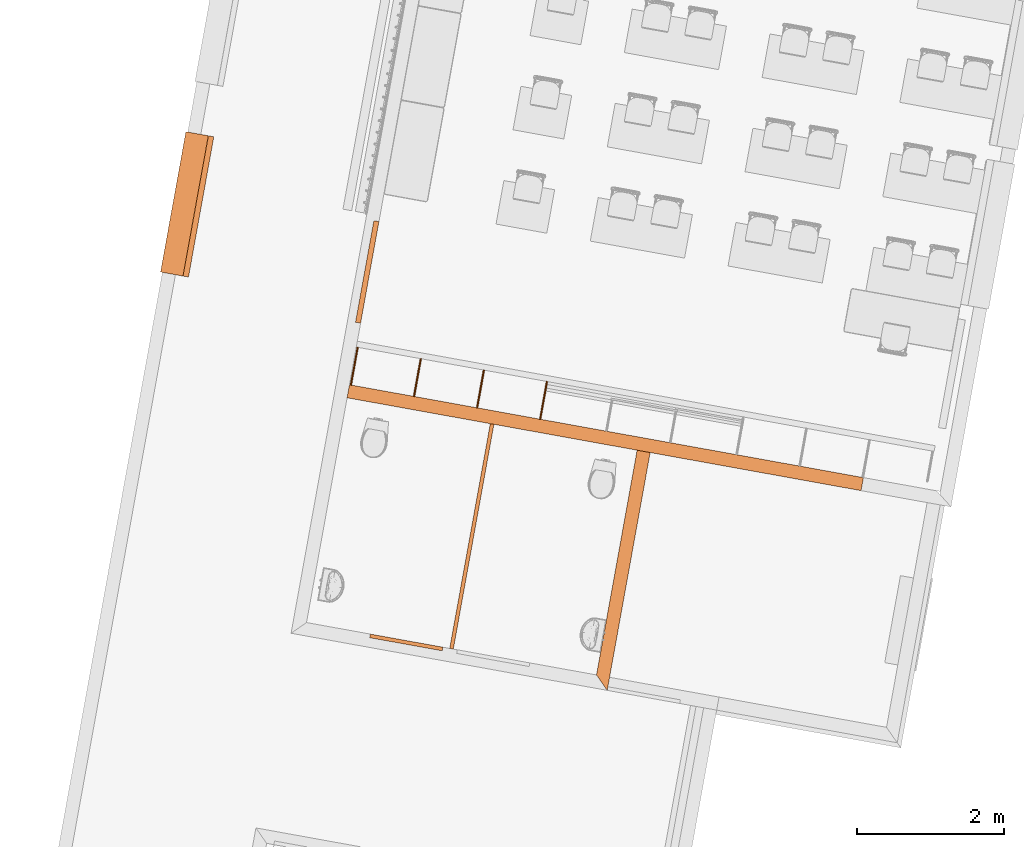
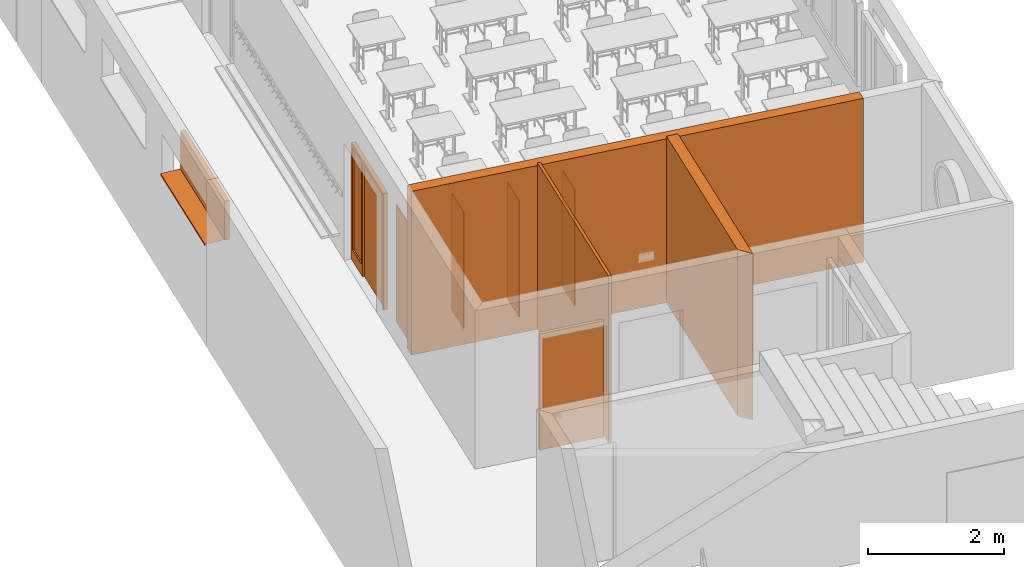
# One storey, part 31 of 79: 10 proxies.
"""IFC2X3 building model written with IfcOpenShell, lengths in metres."""

from ifc_helpers import new_model, entity, si_unit, converted_unit, derived_unit, money_unit, direction, frame, origin_with_axes, place, context, subcontext, project, spatial, polyline, outline, extrude, open_shell, faceted_brep, surface_model, source, transform, mapped, material, type_object, element, save


model = new_model("IFC2X3")

# Units and contexts
model_context = context("Model", 3, precision=1e-05, world=origin_with_axes(), true_north=direction((0.0, 1.0)))
body_context = subcontext(model_context, "Body", "Model", "MODEL_VIEW")
ifc_project = project(units=[si_unit("LENGTHUNIT", "METRE"), si_unit("AREAUNIT", "SQUARE_METRE"), si_unit("VOLUMEUNIT", "CUBIC_METRE"), converted_unit("PLANEANGLEUNIT", "DEGREE", entity("IfcPlaneAngleMeasure", 0.0174532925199), si_unit("PLANEANGLEUNIT", "RADIAN"), dimensions=[0, 0, 0, 0, 0, 0, 0]), money_unit("CHF"), converted_unit("TIMEUNIT", "Year", entity("IfcTimeMeasure", 31556926.0), si_unit("TIMEUNIT", "SECOND"), dimensions=[0, 0, 1, 0, 0, 0, 0]), si_unit("MASSUNIT", "GRAM", prefix="KILO"), si_unit("THERMODYNAMICTEMPERATUREUNIT", "DEGREE_CELSIUS"), si_unit("LUMINOUSINTENSITYUNIT", "LUMEN"), si_unit("ENERGYUNIT", "JOULE", prefix="MEGA"), derived_unit("THERMALCONDUCTANCEUNIT", [(si_unit("POWERUNIT", "WATT"), 1), (si_unit("LENGTHUNIT", "METRE"), -1), (si_unit("THERMODYNAMICTEMPERATUREUNIT", "KELVIN"), -1)]), derived_unit("SPECIFICHEATCAPACITYUNIT", [(si_unit("ENERGYUNIT", "JOULE"), 1), (si_unit("MASSUNIT", "GRAM", prefix="KILO"), -1), (si_unit("THERMODYNAMICTEMPERATUREUNIT", "KELVIN"), -1)]), derived_unit("MASSDENSITYUNIT", [(si_unit("MASSUNIT", "GRAM", prefix="KILO"), 1), (si_unit("VOLUMEUNIT", "CUBIC_METRE"), -1)])], contexts=[model_context])

# Site, building, storey
site_placement = place(None, frame((0.0, 0.0, 0.0), z_axis=(0.0, 0.0, 1.0), x_axis=(-0.177771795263, -0.984071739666, 0.0)))
site = spatial("IfcSite", under=ifc_project, at=site_placement, Name="Site", CompositionType="ELEMENT")
building_placement = place(site_placement, origin_with_axes())
building = spatial("IfcBuilding", under=site, at=building_placement, Name="Bâtiment", CompositionType="ELEMENT")
storey_placement = place(building_placement, origin_with_axes())
storey = spatial("IfcBuildingStorey", under=building, at=storey_placement, Name="RDC", CompositionType="ELEMENT", Elevation=0.0)

# Proxies
ifc_material_1 = material(Name="_BA banché RAL9007")
building_element_proxy_type_1 = type_object("IfcBuildingElementProxyType", Name="_BA banché RAL9007 180", PredefinedType="NOTDEFINED")
proxy_1_placement = place(storey_placement, frame((138.014841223, -152.447094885, -0.15), z_axis=(0.0, 0.0, 1.0), x_axis=(1.0, 0.0, 0.0)))
element("IfcBuildingElementProxy", 1, at=proxy_1_placement, inside=storey, type_object=building_element_proxy_type_1, material=ifc_material_1, Name="M refend", context=body_context, shape_type="SweptSolid", body=[
    extrude(outline(polyline([(0.0, 0.0), (3.1, 0.0), (3.28, 0.18), (0.0, 0.18), (0.0, 0.0)])), origin_with_axes(), (0.0, 0.0, 1.0), 3.0),
])
proxy_2_placement = place(storey_placement, frame((138.014841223, -156.627150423, -0.15), z_axis=(0.0, 0.0, 1.0), x_axis=(0.0, 1.0, 0.0)))
element("IfcBuildingElementProxy", 2, at=proxy_2_placement, inside=storey, type_object=building_element_proxy_type_1, material=ifc_material_1, Name="M refend", context=body_context, shape_type="SweptSolid", body=[
    extrude(outline(polyline([(0.179999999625, 0.0), (7.26899902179, 0.0), (7.26899902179, 0.18), (0.179999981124, 0.18), (0.179999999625, 0.0)])), origin_with_axes(), (0.0, 0.0, 1.0), 2.95),
])
ifc_material_2 = material(Name="Matériau de construction IFC")
building_element_proxy_type_2 = type_object("IfcBuildingElementProxyType", Name="Porte 21", PredefinedType="NOTDEFINED")
shared_shape_1 = source(origin_with_axes(), body_context, "Body", "Brep", [
    faceted_brep([(0.05, 0.14, 0.0), (0.05, 0.14, 2.05), (0.05, 0.13, 2.05), (0.05, 0.13, 0.0), (0.038, 0.14, 2.05), (0.038, 0.14, 0.0), (0.038, 0.18, 2.05), (0.0, 0.18, 2.05), (0.0, 0.13, 2.05), (0.0, 0.13, 0.0), (0.0, 0.18, 0.0), (0.038, 0.18, 0.0)], [[[0, 1, 2, 3]], [[4, 1, 0, 5]], [[4, 6, 7, 8, 2, 1]], [[3, 2, 8, 9]], [[5, 0, 3, 9, 10, 11]], [[6, 4, 5, 11]], [[6, 11, 10, 7]], [[10, 9, 8, 7]]]),
    faceted_brep([(0.962, 0.14, 2.05), (0.95, 0.14, 2.05), (0.95, 0.13, 2.05), (1.0, 0.13, 2.05), (1.0, 0.18, 2.05), (0.962, 0.18, 2.05), (0.962, 0.14, 0.0), (0.95, 0.14, 0.0), (0.95, 0.13, 0.0), (1.0, 0.13, 0.0), (1.0, 0.18, 0.0), (0.962, 0.18, 0.0)], [[[0, 1, 2, 3, 4, 5]], [[1, 0, 6, 7]], [[1, 7, 8, 2]], [[3, 2, 8, 9]], [[4, 3, 9, 10]], [[11, 5, 4, 10]], [[0, 5, 11, 6]], [[6, 11, 10, 9, 8, 7]]]),
    faceted_brep([(0.038, 0.18, 2.062), (0.038, 0.18, 2.05), (0.0, 0.18, 2.05), (0.0, 0.18, 2.1), (1.0, 0.18, 2.1), (1.0, 0.18, 2.05), (0.962, 0.18, 2.05), (0.962, 0.18, 2.062), (0.038, 0.14, 2.062), (0.038, 0.14, 2.05), (0.05, 0.14, 2.05), (0.05, 0.13, 2.05), (0.0, 0.13, 2.05), (0.0, 0.13, 2.1), (1.0, 0.13, 2.1), (1.0, 0.13, 2.05), (0.962, 0.14, 2.05), (0.95, 0.13, 2.05), (0.95, 0.14, 2.05), (0.962, 0.14, 2.062)], [[[0, 1, 2, 3, 4, 5, 6, 7]], [[1, 0, 8, 9]], [[9, 10, 11, 12, 2, 1]], [[2, 12, 13, 3]], [[3, 13, 14, 4]], [[4, 14, 15, 5]], [[16, 6, 5, 15, 17, 18]], [[7, 6, 16, 19]], [[0, 7, 19, 8]], [[16, 18, 10, 9, 8, 19]], [[10, 18, 17, 11]], [[17, 15, 14, 13, 12, 11]]]),
    faceted_brep([(0.962, 0.17, 0.0), (0.962, 0.14, 0.0), (0.038, 0.14, 0.0), (0.038, 0.17, 0.0), (0.962, 0.17, 2.062), (0.962, 0.14, 2.062), (0.038, 0.14, 2.062), (0.038, 0.17, 2.062)], [[[0, 1, 2, 3]], [[4, 5, 1, 0]], [[1, 5, 6, 2]], [[3, 2, 6, 7]], [[0, 3, 7, 4]], [[7, 6, 5, 4]]]),
])
proxy_3_placement = place(storey_placement, frame((141.294841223, -155.567150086, 0.0), z_axis=(0.0, 0.0, 1.0), x_axis=(0.0, 1.0, 0.0)))
element("IfcBuildingElementProxy", 3, at=proxy_3_placement, inside=storey, type_object=building_element_proxy_type_2, material=ifc_material_2, Name="24", context=body_context, shape_type="MappedRepresentation", body=[
    mapped(shared_shape_1, transform((0.0, 0.0, 0.0))),
])
ifc_material_3 = material(Name="_panneau mélaminé")
building_element_proxy_type_3 = type_object("IfcBuildingElementProxyType", Name="_panneau mélaminé 19", PredefinedType="NOTDEFINED")
for number, where, z_axis, x_axis, name in (
    (4, (137.834841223, -155.556651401, 0.0), (0.0, 0.0, 1.0), (-1.0, 0.0, 0.0), "cloison pl-classe"),
    (5, (137.834841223, -154.686651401, 0.0), (0.0, 0.0, 1.0), (-1.0, 0.0, 0.0), "cloison pl-classe"),
):
    element("IfcBuildingElementProxy", number, at=place(storey_placement, frame(where, z_axis=z_axis, x_axis=x_axis)), inside=storey, type_object=building_element_proxy_type_3, material=ifc_material_3, Name=name, context=body_context, shape_type="SweptSolid", body=[
        extrude(outline(polyline([(0.0, -0.0095), (0.51999998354, -0.0095), (0.51999998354, 0.0095), (0.0, 0.0095), (0.0, -0.0095)])), origin_with_axes(), (0.0, 0.0, 1.0), 2.1),
    ])
proxy_4_placement = place(storey_placement, frame((137.834841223, -156.418136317, 0.0), z_axis=(0.0, 0.0, 1.0), x_axis=(-1.0, 0.0, 0.0)))
element("IfcBuildingElementProxy", 6, at=proxy_4_placement, inside=storey, type_object=building_element_proxy_type_3, material=ifc_material_3, Name="cloison pl-classe", context=body_context, shape_type="SweptSolid", body=[
    extrude(outline(polyline([(0.0, 0.0), (0.51999998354, 0.0), (0.51999998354, 0.019), (0.0, 0.019), (0.0, 0.0)])), origin_with_axes(), (0.0, 0.0, 1.0), 2.1),
])
proxy_5_placement = place(storey_placement, frame((137.834841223, -153.816651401, 0.0), z_axis=(0.0, 0.0, 1.0), x_axis=(-1.0, 0.0, 0.0)))
element("IfcBuildingElementProxy", 7, at=proxy_5_placement, inside=storey, type_object=building_element_proxy_type_3, material=ifc_material_3, Name="cloison pl-classe", context=body_context, shape_type="SweptSolid", body=[
    extrude(outline(polyline([(0.0, -0.0095), (0.519999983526, -0.0095), (0.519999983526, 0.0095), (0.0, 0.0095), (0.0, -0.0095)])), origin_with_axes(), (0.0, 0.0, 1.0), 2.1),
])
building_element_proxy_type_4 = type_object("IfcBuildingElementProxyType", Name="Porte avec tierce vitrée côté 2 21", PredefinedType="NOTDEFINED")
shared_shape_2 = source(origin_with_axes(), body_context, "Body", "SurfaceModel", [
    faceted_brep([(0.0, 0.18, 0.0), (0.05, 0.18, 0.0), (0.05, 0.11, 0.0), (0.0, 0.11, 0.0), (0.0, 0.18, 2.05), (0.05, 0.18, 2.05), (0.05, 0.18, 0.2), (0.05, 0.11, 0.2), (0.05, 0.11, 2.05), (0.0, 0.11, 2.05)], [[[0, 1, 2, 3]], [[0, 4, 5, 6, 1]], [[1, 6, 7, 2]], [[3, 2, 7, 8, 9]], [[4, 0, 3, 9]], [[5, 4, 9, 8]], [[6, 5, 8, 7]]]),
    faceted_brep([(0.49, 0.14, 0.0), (0.49, 0.14, 2.05), (0.49, 0.11, 2.05), (0.49, 0.11, 0.0), (0.47, 0.14, 2.05), (0.47, 0.14, 0.0), (0.47, 0.18, 2.05), (0.44, 0.18, 2.05), (0.44, 0.11, 2.05), (0.44, 0.11, 0.0), (0.44, 0.11, 0.2), (0.44, 0.18, 0.0), (0.47, 0.18, 0.0), (0.44, 0.18, 0.2)], [[[0, 1, 2, 3]], [[4, 1, 0, 5]], [[4, 6, 7, 8, 2, 1]], [[9, 3, 2, 8, 10]], [[5, 0, 3, 9, 11, 12]], [[6, 4, 5, 12]], [[6, 12, 11, 13, 7]], [[13, 10, 8, 7]], [[11, 9, 10, 13]]]),
    faceted_brep([(0.05, 0.18, 0.2), (0.05, 0.18, 0.0), (0.05, 0.11, 0.0), (0.05, 0.11, 0.2), (0.44, 0.18, 0.2), (0.44, 0.18, 0.0), (0.44, 0.11, 0.0), (0.44, 0.11, 0.2)], [[[0, 1, 2, 3]], [[0, 4, 5, 1]], [[1, 5, 6, 2]], [[3, 2, 6, 7]], [[4, 0, 3, 7]], [[5, 4, 7, 6]]]),
    faceted_brep([(1.37, 0.14, 2.05), (1.35, 0.14, 2.05), (1.35, 0.11, 2.05), (1.4, 0.11, 2.05), (1.4, 0.18, 2.05), (1.37, 0.18, 2.05), (1.37, 0.14, 0.0), (1.35, 0.14, 0.0), (1.35, 0.11, 0.0), (1.4, 0.11, 0.0), (1.4, 0.18, 0.0), (1.37, 0.18, 0.0)], [[[0, 1, 2, 3, 4, 5]], [[1, 0, 6, 7]], [[1, 7, 8, 2]], [[3, 2, 8, 9]], [[4, 3, 9, 10]], [[11, 5, 4, 10]], [[0, 5, 11, 6]], [[6, 11, 10, 9, 8, 7]]]),
    faceted_brep([(0.47, 0.18, 2.07), (0.47, 0.18, 2.05), (0.44, 0.18, 2.05), (0.05, 0.18, 2.05), (0.0, 0.18, 2.05), (0.0, 0.18, 2.1), (1.4, 0.18, 2.1), (1.4, 0.18, 2.05), (1.37, 0.18, 2.05), (1.37, 0.18, 2.07), (0.47, 0.14, 2.07), (0.47, 0.14, 2.05), (1.35, 0.14, 2.05), (1.35, 0.11, 2.05), (0.49, 0.11, 2.05), (0.44, 0.11, 2.05), (0.05, 0.11, 2.05), (0.0, 0.11, 2.05), (0.0, 0.11, 2.1), (1.4, 0.11, 2.1), (1.4, 0.11, 2.05), (1.37, 0.14, 2.05), (1.37, 0.14, 2.07)], [[[0, 1, 2, 3, 4, 5, 6, 7, 8, 9]], [[1, 0, 10, 11]], [[11, 12, 13, 14, 15, 2, 1]], [[2, 15, 16, 3]], [[3, 16, 17, 4]], [[4, 17, 18, 5]], [[5, 18, 19, 6]], [[6, 19, 20, 7]], [[21, 8, 7, 20, 13, 12]], [[9, 8, 21, 22]], [[0, 9, 22, 10]], [[21, 12, 11, 10, 22]], [[13, 20, 19, 18, 17, 16, 15, 14]]]),
    faceted_brep([(1.37, 0.18, 0.0), (1.37, 0.14, 0.0), (0.47, 0.14, 0.0), (0.47, 0.18, 0.0), (1.37, 0.18, 2.07), (1.37, 0.14, 2.07), (0.47, 0.14, 2.07), (0.47, 0.18, 2.07)], [[[0, 1, 2, 3]], [[4, 5, 1, 0]], [[1, 5, 6, 2]], [[3, 2, 6, 7]], [[0, 3, 7, 4]], [[7, 6, 5, 4]]]),
    surface_model("IfcShellBasedSurfaceModel", [(0.05, 0.145, 0.2), (0.05, 0.145, 2.05), (0.44, 0.145, 2.05), (0.44, 0.145, 0.2)], [open_shell([[[0, 1, 2, 3]]])]),
    surface_model("IfcShellBasedSurfaceModel", [(0.05, 0.135, 0.2), (0.44, 0.135, 0.2), (0.44, 0.135, 2.05), (0.05, 0.135, 2.05)], [open_shell([[[0, 1, 2, 3]]])]),
])
proxy_6_placement = place(storey_placement, frame((135.584841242, -156.627150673, 0.0), z_axis=(0.0, 0.0, 1.0), x_axis=(1.0, 1.02782532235e-07, 0.0)))
element("IfcBuildingElementProxy", 8, at=proxy_6_placement, inside=storey, type_object=building_element_proxy_type_4, material=ifc_material_2, Name="6", context=body_context, shape_type="MappedRepresentation", body=[
    mapped(shared_shape_2, transform((0.0, 0.0, 0.0))),
])
ifc_material_4 = material(Name="_Cloison")
building_element_proxy_type_5 = type_object("IfcBuildingElementProxyType", Name="_Cloison 50", PredefinedType="NOTDEFINED")
proxy_7_placement = place(storey_placement, frame((138.014841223, -154.447150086, -0.15), z_axis=(0.0, 0.0, 1.0), x_axis=(1.0, 0.0, 0.0)))
element("IfcBuildingElementProxy", 9, at=proxy_7_placement, inside=storey, type_object=building_element_proxy_type_5, material=ifc_material_4, Name="clois-WC-RDC", context=body_context, shape_type="SweptSolid", body=[
    extrude(outline(polyline([(0.0, -0.025), (3.1, -0.025), (3.1, 0.025), (0.0, 0.025), (0.0, -0.025)])), origin_with_axes(), (0.0, 0.0, 1.0), 3.0),
])
building_element_proxy_type_6 = type_object("IfcBuildingElementProxyType", Name="Fenêtre variable 21", PredefinedType="NOTDEFINED")
shared_shape_3 = source(origin_with_axes(), body_context, "Body", "SurfaceModel", [
    surface_model("IfcShellBasedSurfaceModel", [(0.0, 0.284, 0.02), (0.0, 0.284, 0.01), (1.935, 0.284, 0.01), (1.935, 0.284, 0.02), (0.0, -0.025, -0.00087719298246), (1.935, -0.025, -0.00087719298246), (0.0, -0.025, -0.0308771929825), (1.935, -0.025, -0.0308771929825), (0.0, -0.0125, -0.0183771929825), (1.935, -0.0125, -0.0183771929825)], [open_shell([[[0, 1, 2, 3]], [[1, 4, 5, 2]], [[4, 6, 7, 5]], [[6, 8, 9, 7]]])]),
    faceted_brep([(0.075, 0.285, 0.625), (0.075, 0.36, 0.625), (0.0, 0.36, 0.625), (0.0, 0.285, 0.625), (0.075, 0.285, 0.075), (0.075, 0.36, 0.075), (0.0, 0.36, 0.075), (0.0, 0.285, 0.075)], [[[0, 1, 2, 3]], [[4, 5, 1, 0]], [[1, 5, 6, 2]], [[3, 2, 6, 7]], [[0, 3, 7, 4]], [[7, 6, 5, 4]]]),
    faceted_brep([(1.86, 0.285, 0.075), (1.86, 0.36, 0.075), (1.935, 0.36, 0.075), (1.935, 0.285, 0.075), (1.86, 0.285, 0.625), (1.86, 0.36, 0.625), (1.935, 0.36, 0.625), (1.935, 0.285, 0.625)], [[[0, 1, 2, 3]], [[4, 5, 1, 0]], [[1, 5, 6, 2]], [[3, 2, 6, 7]], [[0, 3, 7, 4]], [[7, 6, 5, 4]]]),
    faceted_brep([(0.075, 0.285, 0.075), (0.075, 0.36, 0.075), (0.0, 0.36, 0.075), (0.0, 0.285, 0.075), (1.86, 0.285, 0.075), (1.86, 0.36, 0.075), (1.935, 0.36, 0.075), (1.935, 0.36, 0.0), (0.0, 0.36, 0.0), (0.0, 0.285, 0.0), (1.935, 0.285, 0.0), (1.935, 0.285, 0.075)], [[[0, 1, 2, 3]], [[4, 5, 1, 0]], [[1, 5, 6, 7, 8, 2]], [[3, 2, 8, 9]], [[0, 3, 9, 10, 11, 4]], [[11, 6, 5, 4]], [[10, 7, 6, 11]], [[9, 8, 7, 10]]]),
    faceted_brep([(1.86, 0.285, 0.625), (1.86, 0.36, 0.625), (1.935, 0.36, 0.625), (1.935, 0.285, 0.625), (0.075, 0.285, 0.625), (0.075, 0.36, 0.625), (0.0, 0.36, 0.625), (0.0, 0.36, 0.7), (1.935, 0.36, 0.7), (1.935, 0.285, 0.7), (0.0, 0.285, 0.7), (0.0, 0.285, 0.625)], [[[0, 1, 2, 3]], [[4, 5, 1, 0]], [[1, 5, 6, 7, 8, 2]], [[3, 2, 8, 9]], [[0, 3, 9, 10, 11, 4]], [[11, 6, 5, 4]], [[10, 7, 6, 11]], [[9, 8, 7, 10]]]),
    surface_model("IfcShellBasedSurfaceModel", [(0.075, 0.285, 0.075), (1.86, 0.285, 0.075), (1.86, 0.285, 0.625), (0.075, 0.285, 0.625)], [open_shell([[[0, 1, 2, 3]]])]),
    surface_model("IfcShellBasedSurfaceModel", [(0.075, 0.305, 0.075), (0.075, 0.305, 0.625), (1.86, 0.305, 0.625), (1.86, 0.305, 0.075)], [open_shell([[[0, 1, 2, 3]]])]),
])
proxy_8_placement = place(storey_placement, frame((134.849841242, -159.217107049, 1.7), z_axis=(0.0, 0.0, 1.0), x_axis=(1.0, 0.0, 0.0)))
element("IfcBuildingElementProxy", 10, at=proxy_8_placement, inside=storey, type_object=building_element_proxy_type_6, material=ifc_material_2, Name="Fen couloir", context=body_context, shape_type="MappedRepresentation", body=[
    mapped(shared_shape_3, transform((0.0, 0.0, 0.0))),
])

save(model, "model.ifc")
